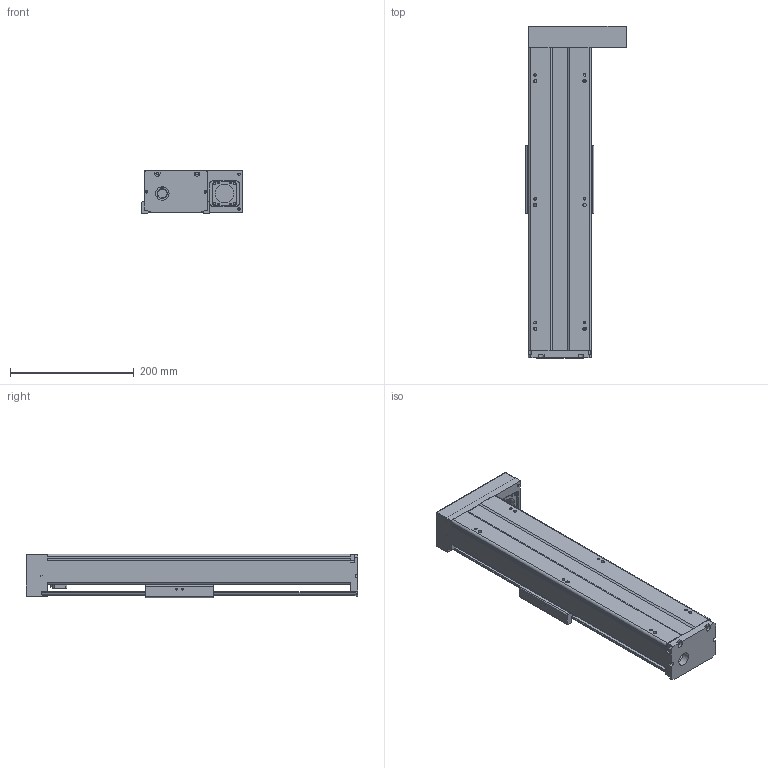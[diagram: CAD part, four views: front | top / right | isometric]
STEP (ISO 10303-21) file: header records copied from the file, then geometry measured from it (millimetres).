
FILE_DESCRIPTION(/* description */ (''),/* implementation_level */ '2;1');
FILE_NAME(/* name */ 'TKA100-FR-300-1_asm1.stp',/* time_stamp */ '2016-05-17T15:27:37+08:00',/* author */ (''),/* organization */ (''),/* preprocessor_version */ 'ST-DEVELOPER v15',/* originating_system */ 'SIEMENS PLM Software NX 8.5',/* authorisation */ '');
FILE_SCHEMA (('AUTOMOTIVE_DESIGN { 1 0 10303 214 3 1 1 1 }'));
Length unit declared in the file: millimetre
Products named in the file (3): 200-2; 200-1; TKA100-FR-300-1_asm1
Assembly tree (2 placements, depth 2):
  TKA100-FR-300-1_asm1
    200-1
    200-2
Bounding box: 162 x 536 x 71 mm (x, y, z)
Volume: 1317055.9 mm3; surface area: 451178.6 mm2
Topology: 2 solids, 16 shells, 778 faces, 2012 edges, 1311 vertices
Faces by surface type: plane 318, cylinder 289, cone 117, torus 28, bspline 26
Full cylindrical faces by diameter (mm): 2.5 x6, 2.6 x8, 3.3 x11, 3.4 x4, 3.8 x8, 4.2 x15, 4.3 x4, 4.5 x6, 5 x2, 5.5 x14, 6.6 x4, 8 x4, 9 x6, 10 x7, 11 x4, 12 x6, 15.3 x1, 16 x1, 22 x1, 24 x1, 28 x2, 30 x1, 33 x1
Entity records: 28494 total; most frequent: CARTESIAN_POINT 10466, DIRECTION 3695, ORIENTED_EDGE 3520, EDGE_CURVE 1760, AXIS2_PLACEMENT_3D 1451, VERTEX_POINT 1238, EDGE_LOOP 1053, LINE 793
